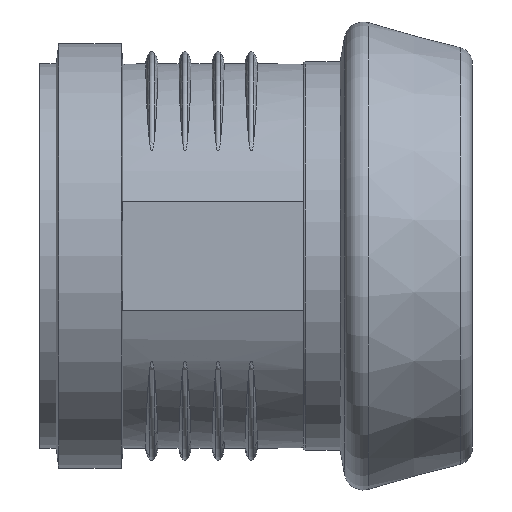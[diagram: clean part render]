
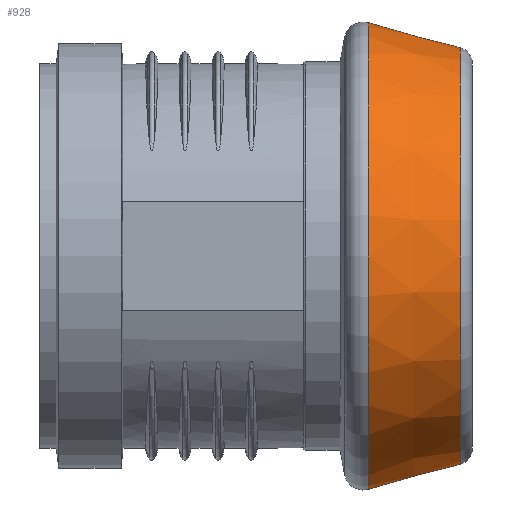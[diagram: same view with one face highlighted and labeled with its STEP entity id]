
A CAD part, front view. The second image highlights one B-rep face of the part: STEP entity #928.
In plain terms, the highlighted conical face has half-angle 15.25 degrees and reference radius 46.609 mm.
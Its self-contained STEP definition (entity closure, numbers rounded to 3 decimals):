
#107=CONICAL_SURFACE($,#1001,46.609,15.25);
#162=FACE_BOUND($,#267,.T.);
#204=FACE_OUTER_BOUND($,#266,.T.);
#266=EDGE_LOOP($,(#624));
#267=EDGE_LOOP($,(#625));
#358=CIRCLE($,#1000,49.259);
#359=CIRCLE($,#1002,43.959);
#406=VERTEX_POINT($,#1362);
#407=VERTEX_POINT($,#1365);
#500=EDGE_CURVE($,#406,#406,#358,.T.);
#501=EDGE_CURVE($,#407,#407,#359,.T.);
#624=ORIENTED_EDGE($,*,*,#501,.F.);
#625=ORIENTED_EDGE($,*,*,#500,.T.);
#928=ADVANCED_FACE($,(#204,#162),#107,.T.);
#1000=AXIS2_PLACEMENT_3D($,#1363,#1127,#1128);
#1001=AXIS2_PLACEMENT_3D($,#1364,#1129,#1130);
#1002=AXIS2_PLACEMENT_3D($,#1366,#1131,#1132);
#1127=DIRECTION('center_axis',(1.,0.,0.));
#1128=DIRECTION('ref_axis',(0.,1.,0.));
#1129=DIRECTION('center_axis',(-1.,0.,0.));
#1130=DIRECTION('ref_axis',(0.,1.,0.));
#1131=DIRECTION('center_axis',(1.,0.,0.));
#1132=DIRECTION('ref_axis',(0.,1.,0.));
#1362=CARTESIAN_POINT('',(13.678,49.259,0.));
#1363=CARTESIAN_POINT('Origin',(13.678,0.,0.));
#1364=CARTESIAN_POINT('Origin',(23.399,0.,0.));
#1365=CARTESIAN_POINT('',(33.121,43.959,0.));
#1366=CARTESIAN_POINT('Origin',(33.121,0.,0.));
